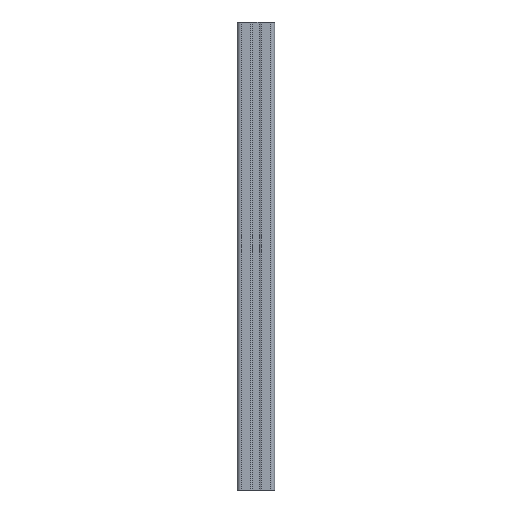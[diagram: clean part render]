
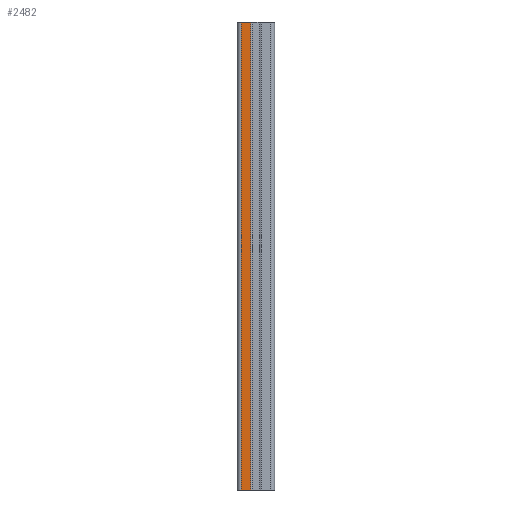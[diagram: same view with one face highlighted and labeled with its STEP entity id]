
A CAD part, left-side view. The second image highlights one B-rep face of the part: STEP entity #2482.
In plain terms, the highlighted planar face has unit normal (-1, 0, 0).
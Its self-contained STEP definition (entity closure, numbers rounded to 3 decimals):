
#416 = CARTESIAN_POINT ( 'NONE',  ( -20615.259, -16978.643, 500. ) ) ;
#417 = LINE ( 'NONE', #416, #474 ) ;
#420 = FACE_OUTER_BOUND ( 'NONE', #2309, .T. ) ;
#453 = DIRECTION ( 'NONE',  ( 0., 0., -1. ) ) ;
#454 = DIRECTION ( 'NONE',  ( 1., 0., 0. ) ) ;
#455 = CARTESIAN_POINT ( 'NONE',  ( -20615.259, -16978.643, 500. ) ) ;
#458 = CARTESIAN_POINT ( 'NONE',  ( -20615.259, -16988.82, 500. ) ) ;
#473 = DIRECTION ( 'NONE',  ( 0., 0., -1. ) ) ;
#474 = VECTOR ( 'NONE', #473, 1000. ) ;
#507 = DIRECTION ( 'NONE',  ( 0., 0., -1. ) ) ;
#508 = VECTOR ( 'NONE', #507, 1000. ) ;
#509 = LINE ( 'NONE', #458, #508 ) ;
#514 = AXIS2_PLACEMENT_3D ( 'NONE', #455, #454, #453 ) ;
#522 = PLANE ( 'NONE',  #514 ) ;
#740 = CARTESIAN_POINT ( 'NONE',  ( -20615.259, -16988.82, 0. ) ) ;
#744 = DIRECTION ( 'NONE',  ( 0., -1., 0. ) ) ;
#745 = VECTOR ( 'NONE', #744, 1000. ) ;
#746 = LINE ( 'NONE', #757, #745 ) ;
#756 = CARTESIAN_POINT ( 'NONE',  ( -20615.259, -16978.643, 0. ) ) ;
#757 = CARTESIAN_POINT ( 'NONE',  ( -20615.259, -16978.643, 0. ) ) ;
#1723 = CARTESIAN_POINT ( 'NONE',  ( -20615.259, -16978.643, 500. ) ) ;
#1942 = EDGE_CURVE ( 'NONE', #2073, #1970, #3503, .T. ) ;
#1970 = VERTEX_POINT ( 'NONE', #3484 ) ;
#2073 = VERTEX_POINT ( 'NONE', #1723 ) ;
#2309 = EDGE_LOOP ( 'NONE', ( #2324, #2477, #2321, #2493 ) ) ;
#2321 = ORIENTED_EDGE ( 'NONE', *, *, #1942, .F. ) ;
#2324 = ORIENTED_EDGE ( 'NONE', *, *, #2537, .T. ) ;
#2396 = EDGE_CURVE ( 'NONE', #2073, #2535, #417, .T. ) ;
#2477 = ORIENTED_EDGE ( 'NONE', *, *, #2483, .F. ) ;
#2482 = ADVANCED_FACE ( 'NONE', ( #420 ), #522, .F. ) ;
#2483 = EDGE_CURVE ( 'NONE', #1970, #2504, #509, .T. ) ;
#2493 = ORIENTED_EDGE ( 'NONE', *, *, #2396, .T. ) ;
#2504 = VERTEX_POINT ( 'NONE', #740 ) ;
#2535 = VERTEX_POINT ( 'NONE', #756 ) ;
#2537 = EDGE_CURVE ( 'NONE', #2535, #2504, #746, .T. ) ;
#3406 = DIRECTION ( 'NONE',  ( 0., -1., 0. ) ) ;
#3407 = VECTOR ( 'NONE', #3406, 1000. ) ;
#3408 = CARTESIAN_POINT ( 'NONE',  ( -20615.259, -16978.643, 500. ) ) ;
#3484 = CARTESIAN_POINT ( 'NONE',  ( -20615.259, -16988.82, 500. ) ) ;
#3503 = LINE ( 'NONE', #3408, #3407 ) ;
